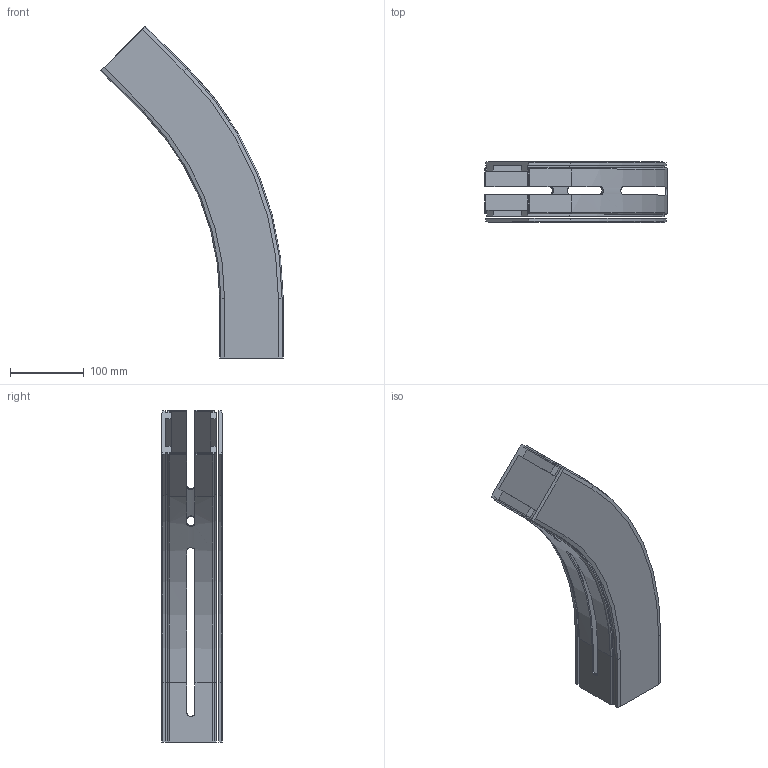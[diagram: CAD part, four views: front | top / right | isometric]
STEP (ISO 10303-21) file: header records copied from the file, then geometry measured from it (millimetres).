
FILE_DESCRIPTION((''),'2;1');
FILE_NAME('C:\Vault Klient\Projekt\Koncept konstruktion\Serie 530 Balk\530-5250.stp','2010-12-01T08:12:23',('Mathias'),(''),'Autodesk Inventor 2011','Autodesk Inventor 2011','');
FILE_SCHEMA(('AUTOMOTIVE_DESIGN { 1 0 10303 214 1 1 1 1 }'));
Length unit declared in the file: millimetre
Products named in the file (1): 530-5250
Bounding box: 247.13 x 82 x 449.82 mm (x, y, z)
Volume: 686444.3 mm3; surface area: 329643.8 mm2
Topology: 2 solids, 2 shells, 163 faces, 458 edges, 300 vertices
Faces by surface type: plane 107, cylinder 30, bspline 18, torus 4, cone 4
Entity records: 5598 total; most frequent: CARTESIAN_POINT 1344, ORIENTED_EDGE 916, DIRECTION 798, EDGE_CURVE 458, VECTOR 338, LINE 338, VERTEX_POINT 300, AXIS2_PLACEMENT_3D 230
